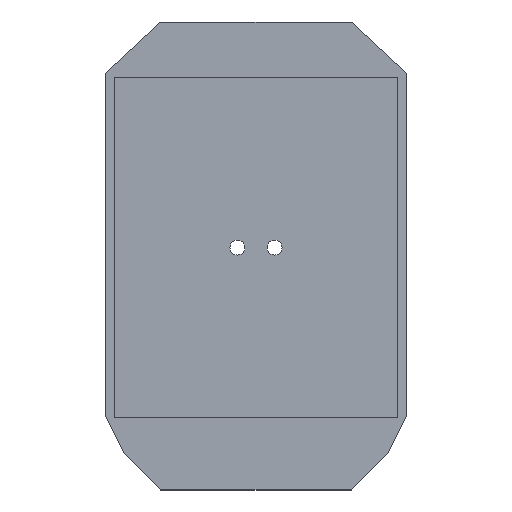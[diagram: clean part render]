
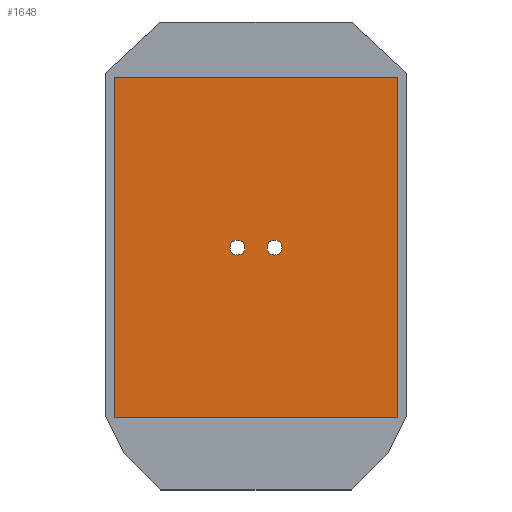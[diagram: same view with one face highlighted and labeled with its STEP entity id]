
A CAD part, top view. The second image highlights one B-rep face of the part: STEP entity #1648.
In plain terms, the highlighted planar face has unit normal (0, 0, 1).
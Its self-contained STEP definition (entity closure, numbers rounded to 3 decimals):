
#822 = PLANE('',#823);
#823 = AXIS2_PLACEMENT_3D('',#824,#825,#826);
#824 = CARTESIAN_POINT('',(-15.2,103.8,4.8));
#825 = DIRECTION('',(-0.,1.,0.));
#826 = DIRECTION('',(0.,0.,1.));
#848 = PLANE('',#849);
#849 = AXIS2_PLACEMENT_3D('',#850,#851,#852);
#850 = CARTESIAN_POINT('',(-15.2,103.8,4.8));
#851 = DIRECTION('',(1.,0.,-0.));
#852 = DIRECTION('',(0.,0.,1.));
#874 = PLANE('',#875);
#875 = AXIS2_PLACEMENT_3D('',#876,#877,#878);
#876 = CARTESIAN_POINT('',(-15.2,140.2,4.8));
#877 = DIRECTION('',(-0.,1.,0.));
#878 = DIRECTION('',(0.,0.,1.));
#898 = PLANE('',#899);
#899 = AXIS2_PLACEMENT_3D('',#900,#901,#902);
#900 = CARTESIAN_POINT('',(15.2,103.8,4.8));
#901 = DIRECTION('',(1.,0.,-0.));
#902 = DIRECTION('',(0.,0.,1.));
#1381 = VERTEX_POINT('',#1382);
#1382 = CARTESIAN_POINT('',(15.2,103.8,4.8));
#1403 = EDGE_CURVE('',#1404,#1381,#1406,.T.);
#1404 = VERTEX_POINT('',#1405);
#1405 = CARTESIAN_POINT('',(-15.2,103.8,4.8));
#1406 = SURFACE_CURVE('',#1407,(#1411,#1418),.PCURVE_S1.);
#1407 = LINE('',#1408,#1409);
#1408 = CARTESIAN_POINT('',(-15.2,103.8,4.8));
#1409 = VECTOR('',#1410,1.);
#1410 = DIRECTION('',(1.,0.,-0.));
#1411 = PCURVE('',#822,#1412);
#1412 = DEFINITIONAL_REPRESENTATION('',(#1413),#1417);
#1413 = LINE('',#1414,#1415);
#1414 = CARTESIAN_POINT('',(0.,0.));
#1415 = VECTOR('',#1416,1.);
#1416 = DIRECTION('',(0.,1.));
#1417 = ( GEOMETRIC_REPRESENTATION_CONTEXT(2) 
PARAMETRIC_REPRESENTATION_CONTEXT() REPRESENTATION_CONTEXT('2D SPACE',''
  ) );
#1418 = PCURVE('',#1419,#1424);
#1419 = PLANE('',#1420);
#1420 = AXIS2_PLACEMENT_3D('',#1421,#1422,#1423);
#1421 = CARTESIAN_POINT('',(-15.2,103.8,4.8));
#1422 = DIRECTION('',(0.,0.,1.));
#1423 = DIRECTION('',(1.,0.,-0.));
#1424 = DEFINITIONAL_REPRESENTATION('',(#1425),#1429);
#1425 = LINE('',#1426,#1427);
#1426 = CARTESIAN_POINT('',(0.,0.));
#1427 = VECTOR('',#1428,1.);
#1428 = DIRECTION('',(1.,0.));
#1429 = ( GEOMETRIC_REPRESENTATION_CONTEXT(2) 
PARAMETRIC_REPRESENTATION_CONTEXT() REPRESENTATION_CONTEXT('2D SPACE',''
  ) );
#1457 = EDGE_CURVE('',#1381,#1458,#1460,.T.);
#1458 = VERTEX_POINT('',#1459);
#1459 = CARTESIAN_POINT('',(15.2,140.2,4.8));
#1460 = SURFACE_CURVE('',#1461,(#1465,#1472),.PCURVE_S1.);
#1461 = LINE('',#1462,#1463);
#1462 = CARTESIAN_POINT('',(15.2,103.8,4.8));
#1463 = VECTOR('',#1464,1.);
#1464 = DIRECTION('',(-0.,1.,0.));
#1465 = PCURVE('',#898,#1466);
#1466 = DEFINITIONAL_REPRESENTATION('',(#1467),#1471);
#1467 = LINE('',#1468,#1469);
#1468 = CARTESIAN_POINT('',(0.,0.));
#1469 = VECTOR('',#1470,1.);
#1470 = DIRECTION('',(0.,-1.));
#1471 = ( GEOMETRIC_REPRESENTATION_CONTEXT(2) 
PARAMETRIC_REPRESENTATION_CONTEXT() REPRESENTATION_CONTEXT('2D SPACE',''
  ) );
#1472 = PCURVE('',#1419,#1473);
#1473 = DEFINITIONAL_REPRESENTATION('',(#1474),#1478);
#1474 = LINE('',#1475,#1476);
#1475 = CARTESIAN_POINT('',(30.4,0.));
#1476 = VECTOR('',#1477,1.);
#1477 = DIRECTION('',(0.,1.));
#1478 = ( GEOMETRIC_REPRESENTATION_CONTEXT(2) 
PARAMETRIC_REPRESENTATION_CONTEXT() REPRESENTATION_CONTEXT('2D SPACE',''
  ) );
#1506 = EDGE_CURVE('',#1507,#1458,#1509,.T.);
#1507 = VERTEX_POINT('',#1508);
#1508 = CARTESIAN_POINT('',(-15.2,140.2,4.8));
#1509 = SURFACE_CURVE('',#1510,(#1514,#1521),.PCURVE_S1.);
#1510 = LINE('',#1511,#1512);
#1511 = CARTESIAN_POINT('',(-15.2,140.2,4.8));
#1512 = VECTOR('',#1513,1.);
#1513 = DIRECTION('',(1.,0.,-0.));
#1514 = PCURVE('',#874,#1515);
#1515 = DEFINITIONAL_REPRESENTATION('',(#1516),#1520);
#1516 = LINE('',#1517,#1518);
#1517 = CARTESIAN_POINT('',(0.,0.));
#1518 = VECTOR('',#1519,1.);
#1519 = DIRECTION('',(0.,1.));
#1520 = ( GEOMETRIC_REPRESENTATION_CONTEXT(2) 
PARAMETRIC_REPRESENTATION_CONTEXT() REPRESENTATION_CONTEXT('2D SPACE',''
  ) );
#1521 = PCURVE('',#1419,#1522);
#1522 = DEFINITIONAL_REPRESENTATION('',(#1523),#1527);
#1523 = LINE('',#1524,#1525);
#1524 = CARTESIAN_POINT('',(0.,36.4));
#1525 = VECTOR('',#1526,1.);
#1526 = DIRECTION('',(1.,0.));
#1527 = ( GEOMETRIC_REPRESENTATION_CONTEXT(2) 
PARAMETRIC_REPRESENTATION_CONTEXT() REPRESENTATION_CONTEXT('2D SPACE',''
  ) );
#1555 = EDGE_CURVE('',#1404,#1507,#1556,.T.);
#1556 = SURFACE_CURVE('',#1557,(#1561,#1568),.PCURVE_S1.);
#1557 = LINE('',#1558,#1559);
#1558 = CARTESIAN_POINT('',(-15.2,103.8,4.8));
#1559 = VECTOR('',#1560,1.);
#1560 = DIRECTION('',(-0.,1.,0.));
#1561 = PCURVE('',#848,#1562);
#1562 = DEFINITIONAL_REPRESENTATION('',(#1563),#1567);
#1563 = LINE('',#1564,#1565);
#1564 = CARTESIAN_POINT('',(0.,0.));
#1565 = VECTOR('',#1566,1.);
#1566 = DIRECTION('',(0.,-1.));
#1567 = ( GEOMETRIC_REPRESENTATION_CONTEXT(2) 
PARAMETRIC_REPRESENTATION_CONTEXT() REPRESENTATION_CONTEXT('2D SPACE',''
  ) );
#1568 = PCURVE('',#1419,#1569);
#1569 = DEFINITIONAL_REPRESENTATION('',(#1570),#1574);
#1570 = LINE('',#1571,#1572);
#1571 = CARTESIAN_POINT('',(0.,0.));
#1572 = VECTOR('',#1573,1.);
#1573 = DIRECTION('',(0.,1.));
#1574 = ( GEOMETRIC_REPRESENTATION_CONTEXT(2) 
PARAMETRIC_REPRESENTATION_CONTEXT() REPRESENTATION_CONTEXT('2D SPACE',''
  ) );
#1606 = CYLINDRICAL_SURFACE('',#1607,0.8);
#1607 = AXIS2_PLACEMENT_3D('',#1608,#1609,#1610);
#1608 = CARTESIAN_POINT('',(-2.,122.,3.8));
#1609 = DIRECTION('',(0.,0.,1.));
#1610 = DIRECTION('',(1.,0.,-0.));
#1637 = CYLINDRICAL_SURFACE('',#1638,0.8);
#1638 = AXIS2_PLACEMENT_3D('',#1639,#1640,#1641);
#1639 = CARTESIAN_POINT('',(2.,122.,3.8));
#1640 = DIRECTION('',(0.,0.,1.));
#1641 = DIRECTION('',(1.,0.,-0.));
#1648 = ADVANCED_FACE('',(#1649,#1655,#1681),#1419,.T.);
#1649 = FACE_BOUND('',#1650,.T.);
#1650 = EDGE_LOOP('',(#1651,#1652,#1653,#1654));
#1651 = ORIENTED_EDGE('',*,*,#1555,.F.);
#1652 = ORIENTED_EDGE('',*,*,#1403,.T.);
#1653 = ORIENTED_EDGE('',*,*,#1457,.T.);
#1654 = ORIENTED_EDGE('',*,*,#1506,.F.);
#1655 = FACE_BOUND('',#1656,.T.);
#1656 = EDGE_LOOP('',(#1657));
#1657 = ORIENTED_EDGE('',*,*,#1658,.F.);
#1658 = EDGE_CURVE('',#1659,#1659,#1661,.T.);
#1659 = VERTEX_POINT('',#1660);
#1660 = CARTESIAN_POINT('',(-1.2,122.,4.8));
#1661 = SURFACE_CURVE('',#1662,(#1667,#1674),.PCURVE_S1.);
#1662 = CIRCLE('',#1663,0.8);
#1663 = AXIS2_PLACEMENT_3D('',#1664,#1665,#1666);
#1664 = CARTESIAN_POINT('',(-2.,122.,4.8));
#1665 = DIRECTION('',(0.,0.,1.));
#1666 = DIRECTION('',(1.,0.,-0.));
#1667 = PCURVE('',#1419,#1668);
#1668 = DEFINITIONAL_REPRESENTATION('',(#1669),#1673);
#1669 = CIRCLE('',#1670,0.8);
#1670 = AXIS2_PLACEMENT_2D('',#1671,#1672);
#1671 = CARTESIAN_POINT('',(13.2,18.2));
#1672 = DIRECTION('',(1.,0.));
#1673 = ( GEOMETRIC_REPRESENTATION_CONTEXT(2) 
PARAMETRIC_REPRESENTATION_CONTEXT() REPRESENTATION_CONTEXT('2D SPACE',''
  ) );
#1674 = PCURVE('',#1606,#1675);
#1675 = DEFINITIONAL_REPRESENTATION('',(#1676),#1680);
#1676 = LINE('',#1677,#1678);
#1677 = CARTESIAN_POINT('',(0.,1.));
#1678 = VECTOR('',#1679,1.);
#1679 = DIRECTION('',(1.,0.));
#1680 = ( GEOMETRIC_REPRESENTATION_CONTEXT(2) 
PARAMETRIC_REPRESENTATION_CONTEXT() REPRESENTATION_CONTEXT('2D SPACE',''
  ) );
#1681 = FACE_BOUND('',#1682,.T.);
#1682 = EDGE_LOOP('',(#1683));
#1683 = ORIENTED_EDGE('',*,*,#1684,.F.);
#1684 = EDGE_CURVE('',#1685,#1685,#1687,.T.);
#1685 = VERTEX_POINT('',#1686);
#1686 = CARTESIAN_POINT('',(2.8,122.,4.8));
#1687 = SURFACE_CURVE('',#1688,(#1693,#1700),.PCURVE_S1.);
#1688 = CIRCLE('',#1689,0.8);
#1689 = AXIS2_PLACEMENT_3D('',#1690,#1691,#1692);
#1690 = CARTESIAN_POINT('',(2.,122.,4.8));
#1691 = DIRECTION('',(0.,0.,1.));
#1692 = DIRECTION('',(1.,0.,-0.));
#1693 = PCURVE('',#1419,#1694);
#1694 = DEFINITIONAL_REPRESENTATION('',(#1695),#1699);
#1695 = CIRCLE('',#1696,0.8);
#1696 = AXIS2_PLACEMENT_2D('',#1697,#1698);
#1697 = CARTESIAN_POINT('',(17.2,18.2));
#1698 = DIRECTION('',(1.,0.));
#1699 = ( GEOMETRIC_REPRESENTATION_CONTEXT(2) 
PARAMETRIC_REPRESENTATION_CONTEXT() REPRESENTATION_CONTEXT('2D SPACE',''
  ) );
#1700 = PCURVE('',#1637,#1701);
#1701 = DEFINITIONAL_REPRESENTATION('',(#1702),#1706);
#1702 = LINE('',#1703,#1704);
#1703 = CARTESIAN_POINT('',(0.,1.));
#1704 = VECTOR('',#1705,1.);
#1705 = DIRECTION('',(1.,0.));
#1706 = ( GEOMETRIC_REPRESENTATION_CONTEXT(2) 
PARAMETRIC_REPRESENTATION_CONTEXT() REPRESENTATION_CONTEXT('2D SPACE',''
  ) );
